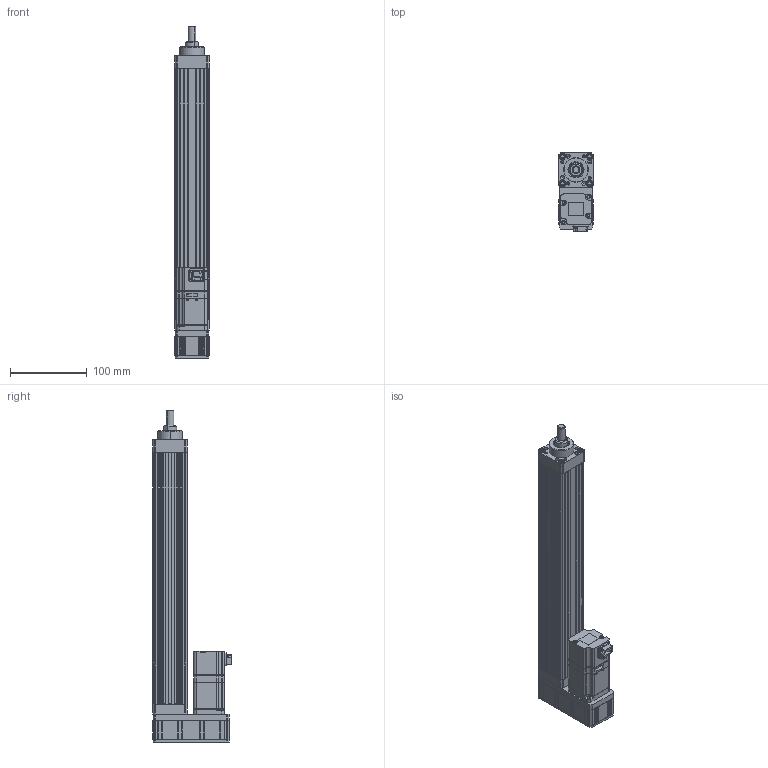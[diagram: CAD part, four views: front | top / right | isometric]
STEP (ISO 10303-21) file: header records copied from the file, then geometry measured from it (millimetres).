
FILE_DESCRIPTION (( 'STEP AP203' ), '1' );
FILE_NAME ('ANS045-P250-05(10)-W10-M.STEP', '2019-02-14T02:57:43', ( 'user' ), ( '' ), 'SwSTEP 2.0', 'SolidWorks 2013', '' );
FILE_SCHEMA (( 'CONFIG_CONTROL_DESIGN' ));
Length unit declared in the file: millimetre
Products named in the file (4): SGMJV_01A_A21; ANS045-P250-05(10)-W10-M; ANS045 P250 VER2; ANS045 ROD ST250 M
Assembly tree (3 placements, depth 2):
  ANS045-P250-05(10)-W10-M
    ANS045 P250 VER2
    ANS045 ROD ST250 M
    SGMJV_01A_A21
Bounding box: 45 x 102.3 x 433.5 mm (x, y, z)
Volume: 674573.9 mm3; surface area: 222964.9 mm2
Topology: 3 solids, 11 shells, 1060 faces, 2747 edges, 1750 vertices
Faces by surface type: plane 607, cylinder 355, cone 96, bspline 2
Entity records: 32395 total; most frequent: CARTESIAN_POINT 6241, ORIENTED_EDGE 5462, DIRECTION 5267, EDGE_CURVE 2731, VECTOR 1891, LINE 1891, VERTEX_POINT 1750, AXIS2_PLACEMENT_3D 1688
